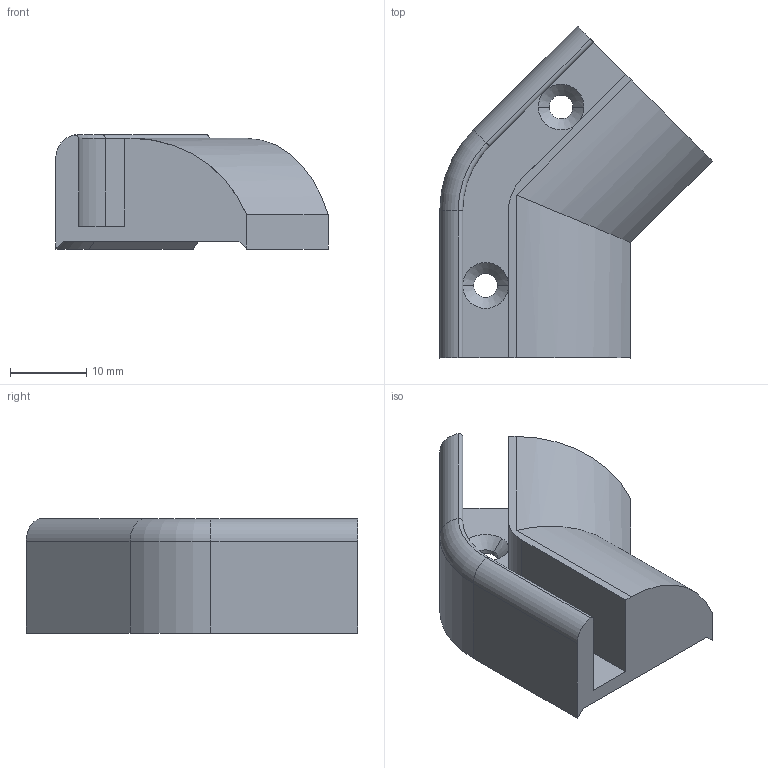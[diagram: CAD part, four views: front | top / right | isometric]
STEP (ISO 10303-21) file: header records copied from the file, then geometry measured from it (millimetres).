
FILE_DESCRIPTION (( 'STEP AP203' ), '1' );
FILE_NAME ('F025245.STEP', '2017-03-22T12:50:41', ( 'Localadmin' ), ( 'Microsoft' ), 'SwSTEP 2.0', 'SolidWorks 2016', '' );
FILE_SCHEMA (( 'CONFIG_CONTROL_DESIGN' ));
Length unit declared in the file: millimetre
Products named in the file (1): F025245
Bounding box: 35.69 x 43.48 x 14.95 mm (x, y, z)
Volume: 9067.7 mm3; surface area: 4524.5 mm2
Topology: 1 solids, 1 shells, 39 faces, 97 edges, 58 vertices
Faces by surface type: plane 19, cylinder 13, cone 5, torus 2
Entity records: 1228 total; most frequent: DIRECTION 208, CARTESIAN_POINT 198, ORIENTED_EDGE 194, EDGE_CURVE 97, AXIS2_PLACEMENT_3D 72, VECTOR 64, LINE 64, VERTEX_POINT 58
